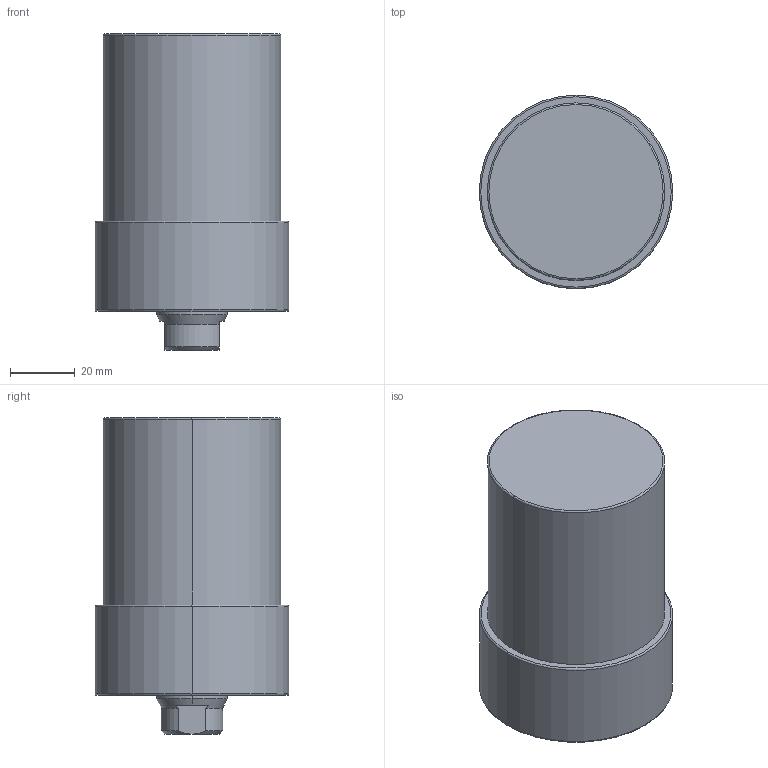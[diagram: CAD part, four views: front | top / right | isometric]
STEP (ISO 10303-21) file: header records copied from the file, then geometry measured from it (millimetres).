
FILE_DESCRIPTION (( 'STEP AP203' ), '1' );
FILE_NAME ('CLLU055-CA-045.STEP', '2017-05-12T11:07:34', ( '' ), ( '' ), 'SwSTEP 2.0', 'SolidWorks 2015', '' );
FILE_SCHEMA (( 'CONFIG_CONTROL_DESIGN' ));
Length unit declared in the file: millimetre
Products named in the file (1): CLLU055-CA-045
Bounding box: 60 x 60 x 98 mm (x, y, z)
Volume: 217299.1 mm3; surface area: 23344.3 mm2
Topology: 1 solids, 1 shells, 62 faces, 138 edges, 77 vertices
Faces by surface type: cone 24, cylinder 22, plane 10, torus 6
Entity records: 1745 total; most frequent: DIRECTION 318, CARTESIAN_POINT 308, ORIENTED_EDGE 256, AXIS2_PLACEMENT_3D 135, EDGE_CURVE 128, VERTEX_POINT 77, CIRCLE 72, EDGE_LOOP 71
